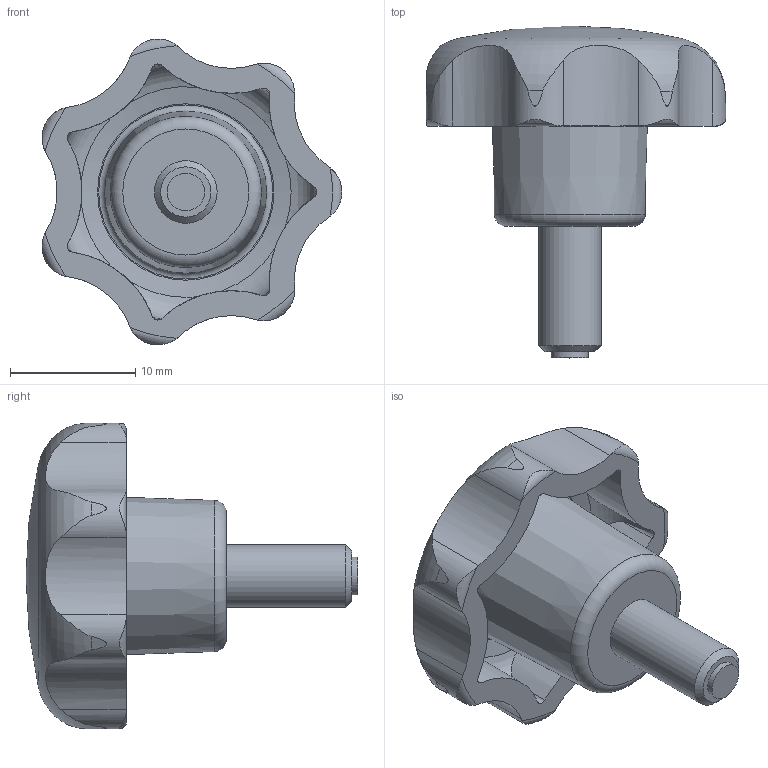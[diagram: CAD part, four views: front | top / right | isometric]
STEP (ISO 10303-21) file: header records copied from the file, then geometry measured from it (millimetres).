
FILE_DESCRIPTION( ( 'STEP AP203' ), '1' );
FILE_NAME( 'C:/Temp/Ganter_Step_05_03_2020/data/2_2/gn6336_10/Star knob GN 6336.10-25-M5-10-MS.stp', '2020-03-05T12:04:05', ( 'License CC BY-ND 4.0' ), ( 'CADENAS' ), ' ', 'PARTsolutions', ' ' );
FILE_SCHEMA( ( 'CONFIG_CONTROL_DESIGN' ) );
Length unit declared in the file: millimetre
Products named in the file (1): _Star knob GN 6336.10-25-M5-10-MS
Bounding box: 23.93 x 26.5 x 24.42 mm (x, y, z)
Volume: 3302.5 mm3; surface area: 2213.2 mm2
Topology: 1 solids, 1 shells, 70 faces, 194 edges, 128 vertices
Faces by surface type: cylinder 30, torus 18, cone 17, plane 4, sphere 1
Full cylindrical faces by diameter (mm): 3 x1, 5 x1
Entity records: 3018 total; most frequent: CARTESIAN_POINT 1333, ORIENTED_EDGE 358, DIRECTION 318, EDGE_CURVE 179, AXIS2_PLACEMENT_3D 145, VERTEX_POINT 124, EDGE_LOOP 82, B_SPLINE_CURVE_WITH_KNOTS 77
